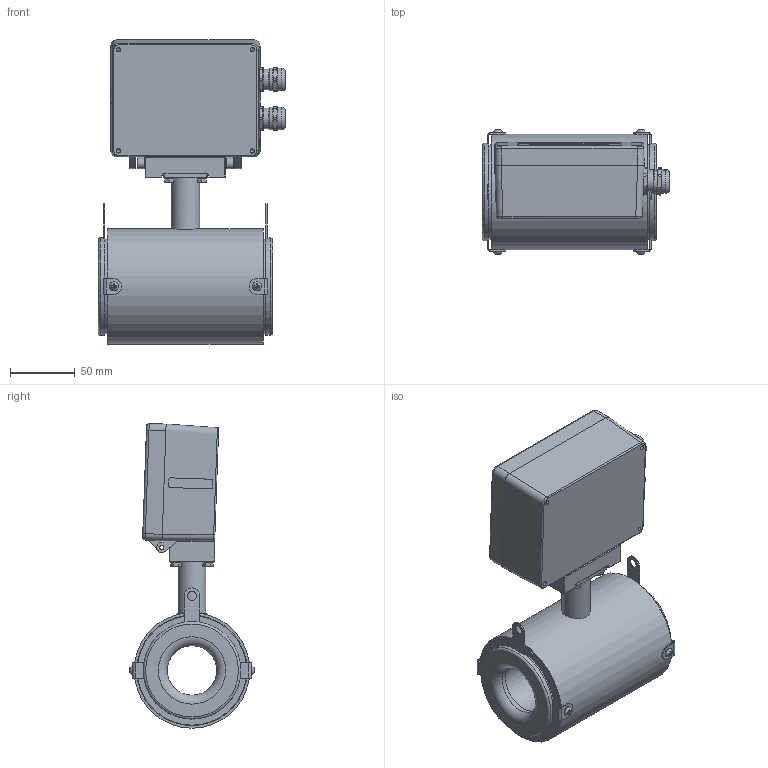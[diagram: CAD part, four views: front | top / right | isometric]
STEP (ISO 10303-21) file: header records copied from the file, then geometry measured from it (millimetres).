
FILE_DESCRIPTION(('STEP AP203'), '1');
FILE_NAME('Âçëåò ÝÌ ÏÐÎÔÈ DN40 Ñýíäâè÷', '', ('UNSPECIFIED'), ('UNSPECIFIED'), 'C3D Converter', 'C3D Toolkit', '');
FILE_SCHEMA(('CONFIG_CONTROL_DESIGN'));
Length unit declared in the file: millimetre
Products named in the file (1): ШКСД.407212.004-002-04
Bounding box: 144.22 x 96.3 x 234.37 mm (x, y, z)
Volume: 277398.5 mm3; surface area: 239891.1 mm2
Topology: 3 solids, 12 shells, 930 faces, 2220 edges, 1388 vertices
Faces by surface type: plane 456, cylinder 273, cone 91, bspline 68, torus 38, sphere 4
Full cylindrical faces by diameter (mm): 3.242 x18, 3.422 x2, 4 x10, 4.134 x1, 4.5 x10, 4.917 x2, 5 x4, 6 x4, 6.2 x2, 7 x6, 7.5 x4, 8.7 x2, 12 x4, 15 x4, 16 x8, 16.3 x2, 17.5 x4, 19 x2, 20.2 x1, 22 x1, 26 x2, 39 x1, 45 x2, 47 x2, 50 x3, 51 x1, 73 x2, 75 x2, 83 x2, 84 x1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
Entity records: 50961 total; most frequent: CARTESIAN_POINT 23223, DIRECTION 4035, ORIENTED_EDGE 3966, EDGE_CURVE 1989, AXIS2_PLACEMENT_3D 1553, VERTEX_POINT 1369, EDGE_LOOP 1264, FACE_BOUND 948
